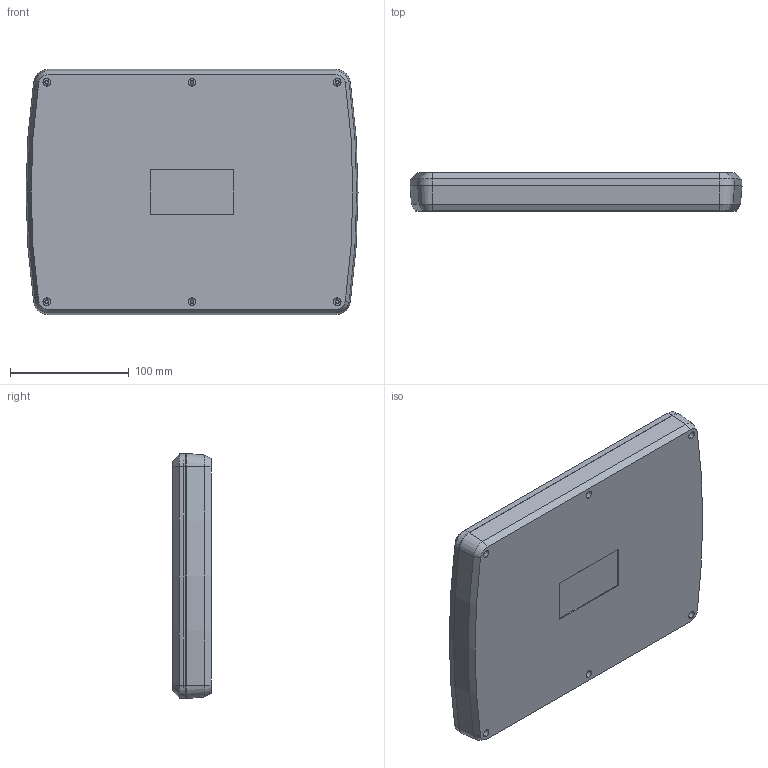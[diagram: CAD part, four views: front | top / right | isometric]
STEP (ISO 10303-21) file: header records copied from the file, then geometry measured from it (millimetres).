
FILE_DESCRIPTION (( 'STEP AP203' ), '1' );
FILE_NAME ('PH2084.STEP', '2018-03-07T06:45:28', ( '' ), ( '' ), 'SwSTEP 2.0', 'SolidWorks 2015', '' );
FILE_SCHEMA (( 'CONFIG_CONTROL_DESIGN' ));
Length unit declared in the file: millimetre
Products named in the file (3): PH2084
Assembly tree (2 placements, depth 2):
  PH2084
    PH2084
    PH2084
Bounding box: 279 x 32 x 206 mm (x, y, z)
Volume: 334607.2 mm3; surface area: 281913.7 mm2
Topology: 2 solids, 2 shells, 434 faces, 1020 edges, 668 vertices
Faces by surface type: cone 180, plane 170, cylinder 56, bspline 28
Entity records: 15049 total; most frequent: CARTESIAN_POINT 4589, DIRECTION 2185, ORIENTED_EDGE 2040, EDGE_CURVE 1020, AXIS2_PLACEMENT_3D 867, VERTEX_POINT 668, EDGE_LOOP 524, CIRCLE 456
